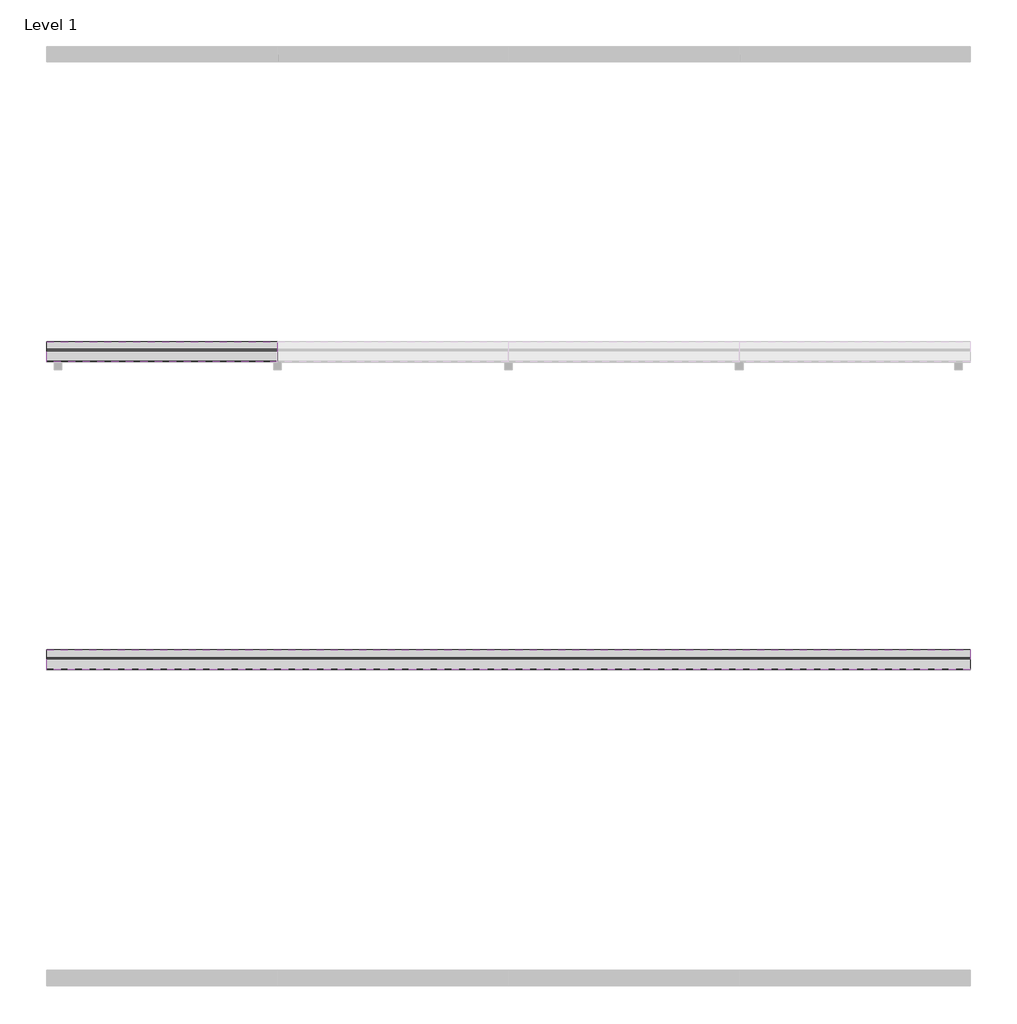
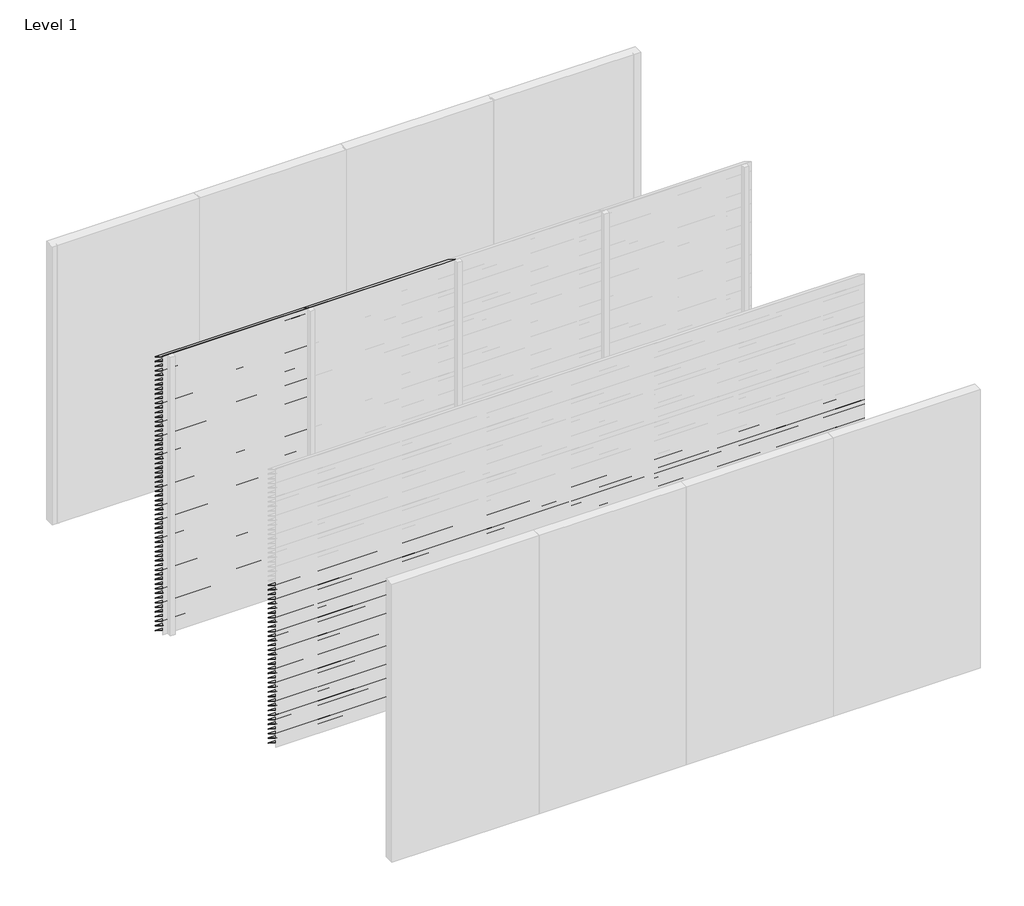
# One storey, part 5 of 13: 96 proxies.
"""IFC4 building model written with IfcOpenShell, lengths in millimetres."""

from ifc_helpers import new_model, si_unit, frame, origin, place, context, project, spatial, polyline, outline, extrude, element, save

model = new_model("IFC4")

# Units and contexts
model_context = context("Model", 3, world=origin())
ifc_project = project(units=[si_unit("LENGTHUNIT", "METRE", prefix="MILLI")], contexts=[model_context])

# Site, building, storey
site = spatial("IfcSite", under=ifc_project)
building = spatial("IfcBuilding", under=site)
storey = spatial("IfcBuildingStorey", under=building, Name="Level 1", Elevation=0.0)

# Proxies
placement = place(None, origin())
element("IfcBuildingElementProxy", 1, Name="Wall Sweeps", at=placement, inside=storey, context=model_context, shape_type="SweptSolid", body=[
    extrude(outline(polyline([(-11995.0, 3000.0), (-11995.0, 2998.0), (-11868.0, 2919.0), (-11868.0, 2913.0), (-11997.0, 2993.2440945), (-11997.0, 3000.0), (-11995.0, 3000.0)])), frame((0.0, 0.0, 0.0), z_axis=(1.0, 0.0, 0.0), x_axis=(0.0, 1.0, 0.0)), (0.0, 0.0, 1.0), 1500.0),
])
element("IfcBuildingElementProxy", 2, Name="Wall Sweeps", at=placement, inside=storey, context=model_context, shape_type="SweptSolid", body=[
    extrude(outline(polyline([(-11995.0, 2950.0), (-11995.0, 2948.0), (-11868.0, 2869.0), (-11868.0, 2863.0), (-11997.0, 2943.2440945), (-11997.0, 2950.0), (-11995.0, 2950.0)])), frame((0.0, 0.0, 0.0), z_axis=(1.0, 0.0, 0.0), x_axis=(0.0, 1.0, 0.0)), (0.0, 0.0, 1.0), 1500.0),
])
element("IfcBuildingElementProxy", 3, Name="Wall Sweeps", at=placement, inside=storey, context=model_context, shape_type="SweptSolid", body=[
    extrude(outline(polyline([(-11995.0, 2900.0), (-11995.0, 2898.0), (-11868.0, 2819.0), (-11868.0, 2813.0), (-11997.0, 2893.2440945), (-11997.0, 2900.0), (-11995.0, 2900.0)])), frame((0.0, 0.0, 0.0), z_axis=(1.0, 0.0, 0.0), x_axis=(0.0, 1.0, 0.0)), (0.0, 0.0, 1.0), 1500.0),
])
element("IfcBuildingElementProxy", 4, Name="Wall Sweeps", at=placement, inside=storey, context=model_context, shape_type="SweptSolid", body=[
    extrude(outline(polyline([(-11995.0, 2850.0), (-11995.0, 2848.0), (-11868.0, 2769.0), (-11868.0, 2763.0), (-11997.0, 2843.2440945), (-11997.0, 2850.0), (-11995.0, 2850.0)])), frame((0.0, 0.0, 0.0), z_axis=(1.0, 0.0, 0.0), x_axis=(0.0, 1.0, 0.0)), (0.0, 0.0, 1.0), 1500.0),
])
element("IfcBuildingElementProxy", 5, Name="Wall Sweeps", at=placement, inside=storey, context=model_context, shape_type="SweptSolid", body=[
    extrude(outline(polyline([(-11995.0, 2800.0), (-11995.0, 2798.0), (-11868.0, 2719.0), (-11868.0, 2713.0), (-11997.0, 2793.2440945), (-11997.0, 2800.0), (-11995.0, 2800.0)])), frame((0.0, 0.0, 0.0), z_axis=(1.0, 0.0, 0.0), x_axis=(0.0, 1.0, 0.0)), (0.0, 0.0, 1.0), 1500.0),
])
element("IfcBuildingElementProxy", 6, Name="Wall Sweeps", at=placement, inside=storey, context=model_context, shape_type="SweptSolid", body=[
    extrude(outline(polyline([(-11995.0, 2750.0), (-11995.0, 2748.0), (-11868.0, 2669.0), (-11868.0, 2663.0), (-11997.0, 2743.2440945), (-11997.0, 2750.0), (-11995.0, 2750.0)])), frame((0.0, 0.0, 0.0), z_axis=(1.0, 0.0, 0.0), x_axis=(0.0, 1.0, 0.0)), (0.0, 0.0, 1.0), 1500.0),
])
element("IfcBuildingElementProxy", 7, Name="Wall Sweeps", at=placement, inside=storey, context=model_context, shape_type="SweptSolid", body=[
    extrude(outline(polyline([(-11995.0, 2700.0), (-11995.0, 2698.0), (-11868.0, 2619.0), (-11868.0, 2613.0), (-11997.0, 2693.2440945), (-11997.0, 2700.0), (-11995.0, 2700.0)])), frame((0.0, 0.0, 0.0), z_axis=(1.0, 0.0, 0.0), x_axis=(0.0, 1.0, 0.0)), (0.0, 0.0, 1.0), 1500.0),
])
element("IfcBuildingElementProxy", 8, Name="Wall Sweeps", at=placement, inside=storey, context=model_context, shape_type="SweptSolid", body=[
    extrude(outline(polyline([(-11995.0, 2650.0), (-11995.0, 2648.0), (-11868.0, 2569.0), (-11868.0, 2563.0), (-11997.0, 2643.2440945), (-11997.0, 2650.0), (-11995.0, 2650.0)])), frame((0.0, 0.0, 0.0), z_axis=(1.0, 0.0, 0.0), x_axis=(0.0, 1.0, 0.0)), (0.0, 0.0, 1.0), 1500.0),
])
element("IfcBuildingElementProxy", 9, Name="Wall Sweeps", at=placement, inside=storey, context=model_context, shape_type="SweptSolid", body=[
    extrude(outline(polyline([(-11995.0, 2600.0), (-11995.0, 2598.0), (-11868.0, 2519.0), (-11868.0, 2513.0), (-11997.0, 2593.2440945), (-11997.0, 2600.0), (-11995.0, 2600.0)])), frame((0.0, 0.0, 0.0), z_axis=(1.0, 0.0, 0.0), x_axis=(0.0, 1.0, 0.0)), (0.0, 0.0, 1.0), 1500.0),
])
element("IfcBuildingElementProxy", 10, Name="Wall Sweeps", at=placement, inside=storey, context=model_context, shape_type="SweptSolid", body=[
    extrude(outline(polyline([(-11995.0, 2550.0), (-11995.0, 2548.0), (-11868.0, 2469.0), (-11868.0, 2463.0), (-11997.0, 2543.2440945), (-11997.0, 2550.0), (-11995.0, 2550.0)])), frame((0.0, 0.0, 0.0), z_axis=(1.0, 0.0, 0.0), x_axis=(0.0, 1.0, 0.0)), (0.0, 0.0, 1.0), 1500.0),
])
element("IfcBuildingElementProxy", 11, Name="Wall Sweeps", at=placement, inside=storey, context=model_context, shape_type="SweptSolid", body=[
    extrude(outline(polyline([(-11995.0, 2500.0), (-11995.0, 2498.0), (-11868.0, 2419.0), (-11868.0, 2413.0), (-11997.0, 2493.2440945), (-11997.0, 2500.0), (-11995.0, 2500.0)])), frame((0.0, 0.0, 0.0), z_axis=(1.0, 0.0, 0.0), x_axis=(0.0, 1.0, 0.0)), (0.0, 0.0, 1.0), 1500.0),
])
element("IfcBuildingElementProxy", 12, Name="Wall Sweeps", at=placement, inside=storey, context=model_context, shape_type="SweptSolid", body=[
    extrude(outline(polyline([(-11995.0, 2450.0), (-11995.0, 2448.0), (-11868.0, 2369.0), (-11868.0, 2363.0), (-11997.0, 2443.2440945), (-11997.0, 2450.0), (-11995.0, 2450.0)])), frame((0.0, 0.0, 0.0), z_axis=(1.0, 0.0, 0.0), x_axis=(0.0, 1.0, 0.0)), (0.0, 0.0, 1.0), 1500.0),
])
element("IfcBuildingElementProxy", 13, Name="Wall Sweeps", at=placement, inside=storey, context=model_context, shape_type="SweptSolid", body=[
    extrude(outline(polyline([(-11995.0, 2400.0), (-11995.0, 2398.0), (-11868.0, 2319.0), (-11868.0, 2313.0), (-11997.0, 2393.2440945), (-11997.0, 2400.0), (-11995.0, 2400.0)])), frame((0.0, 0.0, 0.0), z_axis=(1.0, 0.0, 0.0), x_axis=(0.0, 1.0, 0.0)), (0.0, 0.0, 1.0), 1500.0),
])
element("IfcBuildingElementProxy", 14, Name="Wall Sweeps", at=placement, inside=storey, context=model_context, shape_type="SweptSolid", body=[
    extrude(outline(polyline([(-11995.0, 2350.0), (-11995.0, 2348.0), (-11868.0, 2269.0), (-11868.0, 2263.0), (-11997.0, 2343.2440945), (-11997.0, 2350.0), (-11995.0, 2350.0)])), frame((0.0, 0.0, 0.0), z_axis=(1.0, 0.0, 0.0), x_axis=(0.0, 1.0, 0.0)), (0.0, 0.0, 1.0), 1500.0),
])
element("IfcBuildingElementProxy", 15, Name="Wall Sweeps", at=placement, inside=storey, context=model_context, shape_type="SweptSolid", body=[
    extrude(outline(polyline([(-11995.0, 2300.0), (-11995.0, 2298.0), (-11868.0, 2219.0), (-11868.0, 2213.0), (-11997.0, 2293.2440945), (-11997.0, 2300.0), (-11995.0, 2300.0)])), frame((0.0, 0.0, 0.0), z_axis=(1.0, 0.0, 0.0), x_axis=(0.0, 1.0, 0.0)), (0.0, 0.0, 1.0), 1500.0),
])
element("IfcBuildingElementProxy", 16, Name="Wall Sweeps", at=placement, inside=storey, context=model_context, shape_type="SweptSolid", body=[
    extrude(outline(polyline([(-11995.0, 2250.0), (-11995.0, 2248.0), (-11868.0, 2169.0), (-11868.0, 2163.0), (-11997.0, 2243.2440945), (-11997.0, 2250.0), (-11995.0, 2250.0)])), frame((0.0, 0.0, 0.0), z_axis=(1.0, 0.0, 0.0), x_axis=(0.0, 1.0, 0.0)), (0.0, 0.0, 1.0), 1500.0),
])
element("IfcBuildingElementProxy", 17, Name="Wall Sweeps", at=placement, inside=storey, context=model_context, shape_type="SweptSolid", body=[
    extrude(outline(polyline([(-11995.0, 2200.0), (-11995.0, 2198.0), (-11868.0, 2119.0), (-11868.0, 2113.0), (-11997.0, 2193.2440945), (-11997.0, 2200.0), (-11995.0, 2200.0)])), frame((0.0, 0.0, 0.0), z_axis=(1.0, 0.0, 0.0), x_axis=(0.0, 1.0, 0.0)), (0.0, 0.0, 1.0), 1500.0),
])
element("IfcBuildingElementProxy", 18, Name="Wall Sweeps", at=placement, inside=storey, context=model_context, shape_type="SweptSolid", body=[
    extrude(outline(polyline([(-11995.0, 2150.0), (-11995.0, 2148.0), (-11868.0, 2069.0), (-11868.0, 2063.0), (-11997.0, 2143.2440945), (-11997.0, 2150.0), (-11995.0, 2150.0)])), frame((0.0, 0.0, 0.0), z_axis=(1.0, 0.0, 0.0), x_axis=(0.0, 1.0, 0.0)), (0.0, 0.0, 1.0), 1500.0),
])
element("IfcBuildingElementProxy", 19, Name="Wall Sweeps", at=placement, inside=storey, context=model_context, shape_type="SweptSolid", body=[
    extrude(outline(polyline([(-11995.0, 2100.0), (-11995.0, 2098.0), (-11868.0, 2019.0), (-11868.0, 2013.0), (-11997.0, 2093.2440945), (-11997.0, 2100.0), (-11995.0, 2100.0)])), frame((0.0, 0.0, 0.0), z_axis=(1.0, 0.0, 0.0), x_axis=(0.0, 1.0, 0.0)), (0.0, 0.0, 1.0), 1500.0),
])
element("IfcBuildingElementProxy", 20, Name="Wall Sweeps", at=placement, inside=storey, context=model_context, shape_type="SweptSolid", body=[
    extrude(outline(polyline([(-11995.0, 2050.0), (-11995.0, 2048.0), (-11868.0, 1969.0), (-11868.0, 1963.0), (-11997.0, 2043.2440945), (-11997.0, 2050.0), (-11995.0, 2050.0)])), frame((0.0, 0.0, 0.0), z_axis=(1.0, 0.0, 0.0), x_axis=(0.0, 1.0, 0.0)), (0.0, 0.0, 1.0), 1500.0),
])
element("IfcBuildingElementProxy", 21, Name="Wall Sweeps", at=placement, inside=storey, context=model_context, shape_type="SweptSolid", body=[
    extrude(outline(polyline([(-11995.0, 2000.0), (-11995.0, 1998.0), (-11868.0, 1919.0), (-11868.0, 1913.0), (-11997.0, 1993.2440945), (-11997.0, 2000.0), (-11995.0, 2000.0)])), frame((0.0, 0.0, 0.0), z_axis=(1.0, 0.0, 0.0), x_axis=(0.0, 1.0, 0.0)), (0.0, 0.0, 1.0), 1500.0),
])
element("IfcBuildingElementProxy", 22, Name="Wall Sweeps", at=placement, inside=storey, context=model_context, shape_type="SweptSolid", body=[
    extrude(outline(polyline([(-11995.0, 1950.0), (-11995.0, 1948.0), (-11868.0, 1869.0), (-11868.0, 1863.0), (-11997.0, 1943.2440945), (-11997.0, 1950.0), (-11995.0, 1950.0)])), frame((0.0, 0.0, 0.0), z_axis=(1.0, 0.0, 0.0), x_axis=(0.0, 1.0, 0.0)), (0.0, 0.0, 1.0), 1500.0),
])
element("IfcBuildingElementProxy", 23, Name="Wall Sweeps", at=placement, inside=storey, context=model_context, shape_type="SweptSolid", body=[
    extrude(outline(polyline([(-11995.0, 1900.0), (-11995.0, 1898.0), (-11868.0, 1819.0), (-11868.0, 1813.0), (-11997.0, 1893.2440945), (-11997.0, 1900.0), (-11995.0, 1900.0)])), frame((0.0, 0.0, 0.0), z_axis=(1.0, 0.0, 0.0), x_axis=(0.0, 1.0, 0.0)), (0.0, 0.0, 1.0), 1500.0),
])
element("IfcBuildingElementProxy", 24, Name="Wall Sweeps", at=placement, inside=storey, context=model_context, shape_type="SweptSolid", body=[
    extrude(outline(polyline([(-11995.0, 1850.0), (-11995.0, 1848.0), (-11868.0, 1769.0), (-11868.0, 1763.0), (-11997.0, 1843.2440945), (-11997.0, 1850.0), (-11995.0, 1850.0)])), frame((0.0, 0.0, 0.0), z_axis=(1.0, 0.0, 0.0), x_axis=(0.0, 1.0, 0.0)), (0.0, 0.0, 1.0), 1500.0),
])
element("IfcBuildingElementProxy", 25, Name="Wall Sweeps", at=placement, inside=storey, context=model_context, shape_type="SweptSolid", body=[
    extrude(outline(polyline([(-11995.0, 1800.0), (-11995.0, 1798.0), (-11868.0, 1719.0), (-11868.0, 1713.0), (-11997.0, 1793.2440945), (-11997.0, 1800.0), (-11995.0, 1800.0)])), frame((0.0, 0.0, 0.0), z_axis=(1.0, 0.0, 0.0), x_axis=(0.0, 1.0, 0.0)), (0.0, 0.0, 1.0), 1500.0),
])
element("IfcBuildingElementProxy", 26, Name="Wall Sweeps", at=placement, inside=storey, context=model_context, shape_type="SweptSolid", body=[
    extrude(outline(polyline([(-11995.0, 1750.0), (-11995.0, 1748.0), (-11868.0, 1669.0), (-11868.0, 1663.0), (-11997.0, 1743.2440945), (-11997.0, 1750.0), (-11995.0, 1750.0)])), frame((0.0, 0.0, 0.0), z_axis=(1.0, 0.0, 0.0), x_axis=(0.0, 1.0, 0.0)), (0.0, 0.0, 1.0), 1500.0),
])
element("IfcBuildingElementProxy", 27, Name="Wall Sweeps", at=placement, inside=storey, context=model_context, shape_type="SweptSolid", body=[
    extrude(outline(polyline([(-11995.0, 1700.0), (-11995.0, 1698.0), (-11868.0, 1619.0), (-11868.0, 1613.0), (-11997.0, 1693.2440945), (-11997.0, 1700.0), (-11995.0, 1700.0)])), frame((0.0, 0.0, 0.0), z_axis=(1.0, 0.0, 0.0), x_axis=(0.0, 1.0, 0.0)), (0.0, 0.0, 1.0), 1500.0),
])
element("IfcBuildingElementProxy", 28, Name="Wall Sweeps", at=placement, inside=storey, context=model_context, shape_type="SweptSolid", body=[
    extrude(outline(polyline([(-11995.0, 1650.0), (-11995.0, 1648.0), (-11868.0, 1569.0), (-11868.0, 1563.0), (-11997.0, 1643.2440945), (-11997.0, 1650.0), (-11995.0, 1650.0)])), frame((0.0, 0.0, 0.0), z_axis=(1.0, 0.0, 0.0), x_axis=(0.0, 1.0, 0.0)), (0.0, 0.0, 1.0), 1500.0),
])
element("IfcBuildingElementProxy", 29, Name="Wall Sweeps", at=placement, inside=storey, context=model_context, shape_type="SweptSolid", body=[
    extrude(outline(polyline([(-11995.0, 1600.0), (-11995.0, 1598.0), (-11868.0, 1519.0), (-11868.0, 1513.0), (-11997.0, 1593.2440945), (-11997.0, 1600.0), (-11995.0, 1600.0)])), frame((0.0, 0.0, 0.0), z_axis=(1.0, 0.0, 0.0), x_axis=(0.0, 1.0, 0.0)), (0.0, 0.0, 1.0), 1500.0),
])
element("IfcBuildingElementProxy", 30, Name="Wall Sweeps", at=placement, inside=storey, context=model_context, shape_type="SweptSolid", body=[
    extrude(outline(polyline([(-11995.0, 1550.0), (-11995.0, 1548.0), (-11868.0, 1469.0), (-11868.0, 1463.0), (-11997.0, 1543.2440945), (-11997.0, 1550.0), (-11995.0, 1550.0)])), frame((0.0, 0.0, 0.0), z_axis=(1.0, 0.0, 0.0), x_axis=(0.0, 1.0, 0.0)), (0.0, 0.0, 1.0), 1500.0),
])
element("IfcBuildingElementProxy", 31, Name="Wall Sweeps", at=placement, inside=storey, context=model_context, shape_type="SweptSolid", body=[
    extrude(outline(polyline([(-11995.0, 1500.0), (-11995.0, 1498.0), (-11868.0, 1419.0), (-11868.0, 1413.0), (-11997.0, 1493.2440945), (-11997.0, 1500.0), (-11995.0, 1500.0)])), frame((0.0, 0.0, 0.0), z_axis=(1.0, 0.0, 0.0), x_axis=(0.0, 1.0, 0.0)), (0.0, 0.0, 1.0), 1500.0),
])
element("IfcBuildingElementProxy", 32, Name="Wall Sweeps", at=placement, inside=storey, context=model_context, shape_type="SweptSolid", body=[
    extrude(outline(polyline([(-11995.0, 1450.0), (-11995.0, 1448.0), (-11868.0, 1369.0), (-11868.0, 1363.0), (-11997.0, 1443.2440945), (-11997.0, 1450.0), (-11995.0, 1450.0)])), frame((0.0, 0.0, 0.0), z_axis=(1.0, 0.0, 0.0), x_axis=(0.0, 1.0, 0.0)), (0.0, 0.0, 1.0), 1500.0),
])
element("IfcBuildingElementProxy", 33, Name="Wall Sweeps", at=placement, inside=storey, context=model_context, shape_type="SweptSolid", body=[
    extrude(outline(polyline([(-11995.0, 1400.0), (-11995.0, 1398.0), (-11868.0, 1319.0), (-11868.0, 1313.0), (-11997.0, 1393.2440945), (-11997.0, 1400.0), (-11995.0, 1400.0)])), frame((0.0, 0.0, 0.0), z_axis=(1.0, 0.0, 0.0), x_axis=(0.0, 1.0, 0.0)), (0.0, 0.0, 1.0), 1500.0),
])
element("IfcBuildingElementProxy", 34, Name="Wall Sweeps", at=placement, inside=storey, context=model_context, shape_type="SweptSolid", body=[
    extrude(outline(polyline([(-11995.0, 1350.0), (-11995.0, 1348.0), (-11868.0, 1269.0), (-11868.0, 1263.0), (-11997.0, 1343.2440945), (-11997.0, 1350.0), (-11995.0, 1350.0)])), frame((0.0, 0.0, 0.0), z_axis=(1.0, 0.0, 0.0), x_axis=(0.0, 1.0, 0.0)), (0.0, 0.0, 1.0), 1500.0),
])
element("IfcBuildingElementProxy", 35, Name="Wall Sweeps", at=placement, inside=storey, context=model_context, shape_type="SweptSolid", body=[
    extrude(outline(polyline([(-11995.0, 1300.0), (-11995.0, 1298.0), (-11868.0, 1219.0), (-11868.0, 1213.0), (-11997.0, 1293.2440945), (-11997.0, 1300.0), (-11995.0, 1300.0)])), frame((0.0, 0.0, 0.0), z_axis=(1.0, 0.0, 0.0), x_axis=(0.0, 1.0, 0.0)), (0.0, 0.0, 1.0), 1500.0),
])
element("IfcBuildingElementProxy", 36, Name="Wall Sweeps", at=placement, inside=storey, context=model_context, shape_type="SweptSolid", body=[
    extrude(outline(polyline([(-11995.0, 1250.0), (-11995.0, 1248.0), (-11868.0, 1169.0), (-11868.0, 1163.0), (-11997.0, 1243.2440945), (-11997.0, 1250.0), (-11995.0, 1250.0)])), frame((0.0, 0.0, 0.0), z_axis=(1.0, 0.0, 0.0), x_axis=(0.0, 1.0, 0.0)), (0.0, 0.0, 1.0), 1500.0),
])
element("IfcBuildingElementProxy", 37, Name="Wall Sweeps", at=placement, inside=storey, context=model_context, shape_type="SweptSolid", body=[
    extrude(outline(polyline([(-11995.0, 1200.0), (-11995.0, 1198.0), (-11868.0, 1119.0), (-11868.0, 1113.0), (-11997.0, 1193.2440945), (-11997.0, 1200.0), (-11995.0, 1200.0)])), frame((0.0, 0.0, 0.0), z_axis=(1.0, 0.0, 0.0), x_axis=(0.0, 1.0, 0.0)), (0.0, 0.0, 1.0), 1500.0),
])
element("IfcBuildingElementProxy", 38, Name="Wall Sweeps", at=placement, inside=storey, context=model_context, shape_type="SweptSolid", body=[
    extrude(outline(polyline([(-11995.0, 1150.0), (-11995.0, 1148.0), (-11868.0, 1069.0), (-11868.0, 1063.0), (-11997.0, 1143.2440945), (-11997.0, 1150.0), (-11995.0, 1150.0)])), frame((0.0, 0.0, 0.0), z_axis=(1.0, 0.0, 0.0), x_axis=(0.0, 1.0, 0.0)), (0.0, 0.0, 1.0), 1500.0),
])
element("IfcBuildingElementProxy", 39, Name="Wall Sweeps", at=placement, inside=storey, context=model_context, shape_type="SweptSolid", body=[
    extrude(outline(polyline([(-11995.0, 1100.0), (-11995.0, 1098.0), (-11868.0, 1019.0), (-11868.0, 1013.0), (-11997.0, 1093.2440945), (-11997.0, 1100.0), (-11995.0, 1100.0)])), frame((0.0, 0.0, 0.0), z_axis=(1.0, 0.0, 0.0), x_axis=(0.0, 1.0, 0.0)), (0.0, 0.0, 1.0), 1500.0),
])
element("IfcBuildingElementProxy", 40, Name="Wall Sweeps", at=placement, inside=storey, context=model_context, shape_type="SweptSolid", body=[
    extrude(outline(polyline([(-11995.0, 1050.0), (-11995.0, 1048.0), (-11868.0, 969.0), (-11868.0, 963.0), (-11997.0, 1043.2440945), (-11997.0, 1050.0), (-11995.0, 1050.0)])), frame((0.0, 0.0, 0.0), z_axis=(1.0, 0.0, 0.0), x_axis=(0.0, 1.0, 0.0)), (0.0, 0.0, 1.0), 1500.0),
])
element("IfcBuildingElementProxy", 41, Name="Wall Sweeps", at=placement, inside=storey, context=model_context, shape_type="SweptSolid", body=[
    extrude(outline(polyline([(-11995.0, 1000.0), (-11995.0, 998.0), (-11868.0, 919.0), (-11868.0, 913.0), (-11997.0, 993.2440945), (-11997.0, 1000.0), (-11995.0, 1000.0)])), frame((0.0, 0.0, 0.0), z_axis=(1.0, 0.0, 0.0), x_axis=(0.0, 1.0, 0.0)), (0.0, 0.0, 1.0), 1500.0),
])
element("IfcBuildingElementProxy", 42, Name="Wall Sweeps", at=placement, inside=storey, context=model_context, shape_type="SweptSolid", body=[
    extrude(outline(polyline([(-11995.0, 950.0), (-11995.0, 948.0), (-11868.0, 869.0), (-11868.0, 863.0), (-11997.0, 943.2440945), (-11997.0, 950.0), (-11995.0, 950.0)])), frame((0.0, 0.0, 0.0), z_axis=(1.0, 0.0, 0.0), x_axis=(0.0, 1.0, 0.0)), (0.0, 0.0, 1.0), 1500.0),
])
element("IfcBuildingElementProxy", 43, Name="Wall Sweeps", at=placement, inside=storey, context=model_context, shape_type="SweptSolid", body=[
    extrude(outline(polyline([(-11995.0, 900.0), (-11995.0, 898.0), (-11868.0, 819.0), (-11868.0, 813.0), (-11997.0, 893.2440945), (-11997.0, 900.0), (-11995.0, 900.0)])), frame((0.0, 0.0, 0.0), z_axis=(1.0, 0.0, 0.0), x_axis=(0.0, 1.0, 0.0)), (0.0, 0.0, 1.0), 1500.0),
])
element("IfcBuildingElementProxy", 44, Name="Wall Sweeps", at=placement, inside=storey, context=model_context, shape_type="SweptSolid", body=[
    extrude(outline(polyline([(-11995.0, 850.0), (-11995.0, 848.0), (-11868.0, 769.0), (-11868.0, 763.0), (-11997.0, 843.2440945), (-11997.0, 850.0), (-11995.0, 850.0)])), frame((0.0, 0.0, 0.0), z_axis=(1.0, 0.0, 0.0), x_axis=(0.0, 1.0, 0.0)), (0.0, 0.0, 1.0), 1500.0),
])
element("IfcBuildingElementProxy", 45, Name="Wall Sweeps", at=placement, inside=storey, context=model_context, shape_type="SweptSolid", body=[
    extrude(outline(polyline([(-11995.0, 800.0), (-11995.0, 798.0), (-11868.0, 719.0), (-11868.0, 713.0), (-11997.0, 793.2440945), (-11997.0, 800.0), (-11995.0, 800.0)])), frame((0.0, 0.0, 0.0), z_axis=(1.0, 0.0, 0.0), x_axis=(0.0, 1.0, 0.0)), (0.0, 0.0, 1.0), 1500.0),
])
element("IfcBuildingElementProxy", 46, Name="Wall Sweeps", at=placement, inside=storey, context=model_context, shape_type="SweptSolid", body=[
    extrude(outline(polyline([(-11995.0, 750.0), (-11995.0, 748.0), (-11868.0, 669.0), (-11868.0, 663.0), (-11997.0, 743.2440945), (-11997.0, 750.0), (-11995.0, 750.0)])), frame((0.0, 0.0, 0.0), z_axis=(1.0, 0.0, 0.0), x_axis=(0.0, 1.0, 0.0)), (0.0, 0.0, 1.0), 1500.0),
])
element("IfcBuildingElementProxy", 47, Name="Wall Sweeps", at=placement, inside=storey, context=model_context, shape_type="SweptSolid", body=[
    extrude(outline(polyline([(-11995.0, 700.0), (-11995.0, 698.0), (-11868.0, 619.0), (-11868.0, 613.0), (-11997.0, 693.2440945), (-11997.0, 700.0), (-11995.0, 700.0)])), frame((0.0, 0.0, 0.0), z_axis=(1.0, 0.0, 0.0), x_axis=(0.0, 1.0, 0.0)), (0.0, 0.0, 1.0), 1500.0),
])
element("IfcBuildingElementProxy", 48, Name="Wall Sweeps", at=placement, inside=storey, context=model_context, shape_type="SweptSolid", body=[
    extrude(outline(polyline([(-11995.0, 650.0), (-11995.0, 648.0), (-11868.0, 569.0), (-11868.0, 563.0), (-11997.0, 643.2440945), (-11997.0, 650.0), (-11995.0, 650.0)])), frame((0.0, 0.0, 0.0), z_axis=(1.0, 0.0, 0.0), x_axis=(0.0, 1.0, 0.0)), (0.0, 0.0, 1.0), 1500.0),
])
element("IfcBuildingElementProxy", 49, Name="Wall Sweeps", at=placement, inside=storey, context=model_context, shape_type="SweptSolid", body=[
    extrude(outline(polyline([(-11995.0, 600.0), (-11995.0, 598.0), (-11868.0, 519.0), (-11868.0, 513.0), (-11997.0, 593.2440945), (-11997.0, 600.0), (-11995.0, 600.0)])), frame((0.0, 0.0, 0.0), z_axis=(1.0, 0.0, 0.0), x_axis=(0.0, 1.0, 0.0)), (0.0, 0.0, 1.0), 1500.0),
])
element("IfcBuildingElementProxy", 50, Name="Wall Sweeps", at=placement, inside=storey, context=model_context, shape_type="SweptSolid", body=[
    extrude(outline(polyline([(-11995.0, 550.0), (-11995.0, 548.0), (-11868.0, 469.0), (-11868.0, 463.0), (-11997.0, 543.2440945), (-11997.0, 550.0), (-11995.0, 550.0)])), frame((0.0, 0.0, 0.0), z_axis=(1.0, 0.0, 0.0), x_axis=(0.0, 1.0, 0.0)), (0.0, 0.0, 1.0), 1500.0),
])
element("IfcBuildingElementProxy", 51, Name="Wall Sweeps", at=placement, inside=storey, context=model_context, shape_type="SweptSolid", body=[
    extrude(outline(polyline([(-11995.0, 500.0), (-11995.0, 498.0), (-11868.0, 419.0), (-11868.0, 413.0), (-11997.0, 493.2440945), (-11997.0, 500.0), (-11995.0, 500.0)])), frame((0.0, 0.0, 0.0), z_axis=(1.0, 0.0, 0.0), x_axis=(0.0, 1.0, 0.0)), (0.0, 0.0, 1.0), 1500.0),
])
element("IfcBuildingElementProxy", 52, Name="Wall Sweeps", at=placement, inside=storey, context=model_context, shape_type="SweptSolid", body=[
    extrude(outline(polyline([(-11995.0, 450.0), (-11995.0, 448.0), (-11868.0, 369.0), (-11868.0, 363.0), (-11997.0, 443.2440945), (-11997.0, 450.0), (-11995.0, 450.0)])), frame((0.0, 0.0, 0.0), z_axis=(1.0, 0.0, 0.0), x_axis=(0.0, 1.0, 0.0)), (0.0, 0.0, 1.0), 1500.0),
])
element("IfcBuildingElementProxy", 53, Name="Wall Sweeps", at=placement, inside=storey, context=model_context, shape_type="SweptSolid", body=[
    extrude(outline(polyline([(-11995.0, 400.0), (-11995.0, 398.0), (-11868.0, 319.0), (-11868.0, 313.0), (-11997.0, 393.2440945), (-11997.0, 400.0), (-11995.0, 400.0)])), frame((0.0, 0.0, 0.0), z_axis=(1.0, 0.0, 0.0), x_axis=(0.0, 1.0, 0.0)), (0.0, 0.0, 1.0), 1500.0),
])
element("IfcBuildingElementProxy", 54, Name="Wall Sweeps", at=placement, inside=storey, context=model_context, shape_type="SweptSolid", body=[
    extrude(outline(polyline([(-11995.0, 350.0), (-11995.0, 348.0), (-11868.0, 269.0), (-11868.0, 263.0), (-11997.0, 343.2440945), (-11997.0, 350.0), (-11995.0, 350.0)])), frame((0.0, 0.0, 0.0), z_axis=(1.0, 0.0, 0.0), x_axis=(0.0, 1.0, 0.0)), (0.0, 0.0, 1.0), 1500.0),
])
element("IfcBuildingElementProxy", 55, Name="Wall Sweeps", at=placement, inside=storey, context=model_context, shape_type="SweptSolid", body=[
    extrude(outline(polyline([(-11995.0, 300.0), (-11995.0, 298.0), (-11868.0, 219.0), (-11868.0, 213.0), (-11997.0, 293.2440945), (-11997.0, 300.0), (-11995.0, 300.0)])), frame((0.0, 0.0, 0.0), z_axis=(1.0, 0.0, 0.0), x_axis=(0.0, 1.0, 0.0)), (0.0, 0.0, 1.0), 1500.0),
])
element("IfcBuildingElementProxy", 56, Name="Wall Sweeps", at=placement, inside=storey, context=model_context, shape_type="SweptSolid", body=[
    extrude(outline(polyline([(-11995.0, 250.0), (-11995.0, 248.0), (-11868.0, 169.0), (-11868.0, 163.0), (-11997.0, 243.2440945), (-11997.0, 250.0), (-11995.0, 250.0)])), frame((0.0, 0.0, 0.0), z_axis=(1.0, 0.0, 0.0), x_axis=(0.0, 1.0, 0.0)), (0.0, 0.0, 1.0), 1500.0),
])
element("IfcBuildingElementProxy", 57, Name="Wall Sweeps", at=placement, inside=storey, context=model_context, shape_type="SweptSolid", body=[
    extrude(outline(polyline([(-11995.0, 200.0), (-11995.0, 198.0), (-11868.0, 119.0), (-11868.0, 113.0), (-11997.0, 193.2440945), (-11997.0, 200.0), (-11995.0, 200.0)])), frame((0.0, 0.0, 0.0), z_axis=(1.0, 0.0, 0.0), x_axis=(0.0, 1.0, 0.0)), (0.0, 0.0, 1.0), 1500.0),
])
element("IfcBuildingElementProxy", 58, Name="Wall Sweeps", at=placement, inside=storey, context=model_context, shape_type="SweptSolid", body=[
    extrude(outline(polyline([(-11995.0, 150.0), (-11995.0, 148.0), (-11868.0, 69.0), (-11868.0, 63.0), (-11997.0, 143.2440945), (-11997.0, 150.0), (-11995.0, 150.0)])), frame((0.0, 0.0, 0.0), z_axis=(1.0, 0.0, 0.0), x_axis=(0.0, 1.0, 0.0)), (0.0, 0.0, 1.0), 1500.0),
])
element("IfcBuildingElementProxy", 59, Name="Wall Sweeps", at=placement, inside=storey, context=model_context, shape_type="SweptSolid", body=[
    extrude(outline(polyline([(-11995.0, 100.0), (-11995.0, 98.0), (-11868.0, 19.0), (-11868.0, 13.0), (-11997.0, 93.2440945), (-11997.0, 100.0), (-11995.0, 100.0)])), frame((0.0, 0.0, 0.0), z_axis=(1.0, 0.0, 0.0), x_axis=(0.0, 1.0, 0.0)), (0.0, 0.0, 1.0), 1500.0),
])
element("IfcBuildingElementProxy", 60, Name="Wall Sweeps", at=placement, inside=storey, context=model_context, shape_type="SweptSolid", body=[
    extrude(outline(polyline([(-11995.0, 50.0), (-11995.0, 48.0), (-11868.0, -31.0), (-11868.0, -37.0), (-11997.0, 43.2440945), (-11997.0, 50.0), (-11995.0, 50.0)])), frame((0.0, 0.0, 0.0), z_axis=(1.0, 0.0, 0.0), x_axis=(0.0, 1.0, 0.0)), (0.0, 0.0, 1.0), 1500.0),
])
element("IfcBuildingElementProxy", 61, Name="Wall Sweeps", at=placement, inside=storey, context=model_context, shape_type="SweptSolid", body=[
    extrude(outline(polyline([(-11995.0, 3000.0), (-11995.0, 2998.0), (-11868.0, 2919.0), (-11868.0, 2913.0), (-11997.0, 2993.2440945), (-11997.0, 3000.0), (-11995.0, 3000.0)])), frame((1500.0, 0.0, 0.0), z_axis=(1.0, 0.0, 0.0), x_axis=(0.0, 1.0, 0.0)), (0.0, 0.0, 1.0), 1500.0),
])
element("IfcBuildingElementProxy", 62, Name="Wall Sweeps", at=placement, inside=storey, context=model_context, shape_type="SweptSolid", body=[
    extrude(outline(polyline([(-13995.0, 1750.0), (-13995.0, 1748.0), (-13868.0, 1669.0), (-13868.0, 1663.0), (-13997.0, 1743.2440945), (-13997.0, 1750.0), (-13995.0, 1750.0)])), frame((0.0, 0.0, 0.0), z_axis=(1.0, 0.0, 0.0), x_axis=(0.0, 1.0, 0.0)), (0.0, 0.0, 1.0), 6000.0),
])
element("IfcBuildingElementProxy", 63, Name="Wall Sweeps", at=placement, inside=storey, context=model_context, shape_type="SweptSolid", body=[
    extrude(outline(polyline([(-13995.0, 1700.0), (-13995.0, 1698.0), (-13868.0, 1619.0), (-13868.0, 1613.0), (-13997.0, 1693.2440945), (-13997.0, 1700.0), (-13995.0, 1700.0)])), frame((0.0, 0.0, 0.0), z_axis=(1.0, 0.0, 0.0), x_axis=(0.0, 1.0, 0.0)), (0.0, 0.0, 1.0), 6000.0),
])
element("IfcBuildingElementProxy", 64, Name="Wall Sweeps", at=placement, inside=storey, context=model_context, shape_type="SweptSolid", body=[
    extrude(outline(polyline([(-13995.0, 1650.0), (-13995.0, 1648.0), (-13868.0, 1569.0), (-13868.0, 1563.0), (-13997.0, 1643.2440945), (-13997.0, 1650.0), (-13995.0, 1650.0)])), frame((0.0, 0.0, 0.0), z_axis=(1.0, 0.0, 0.0), x_axis=(0.0, 1.0, 0.0)), (0.0, 0.0, 1.0), 6000.0),
])
element("IfcBuildingElementProxy", 65, Name="Wall Sweeps", at=placement, inside=storey, context=model_context, shape_type="SweptSolid", body=[
    extrude(outline(polyline([(-13995.0, 1600.0), (-13995.0, 1598.0), (-13868.0, 1519.0), (-13868.0, 1513.0), (-13997.0, 1593.2440945), (-13997.0, 1600.0), (-13995.0, 1600.0)])), frame((0.0, 0.0, 0.0), z_axis=(1.0, 0.0, 0.0), x_axis=(0.0, 1.0, 0.0)), (0.0, 0.0, 1.0), 6000.0),
])
element("IfcBuildingElementProxy", 66, Name="Wall Sweeps", at=placement, inside=storey, context=model_context, shape_type="SweptSolid", body=[
    extrude(outline(polyline([(-13995.0, 1550.0), (-13995.0, 1548.0), (-13868.0, 1469.0), (-13868.0, 1463.0), (-13997.0, 1543.2440945), (-13997.0, 1550.0), (-13995.0, 1550.0)])), frame((0.0, 0.0, 0.0), z_axis=(1.0, 0.0, 0.0), x_axis=(0.0, 1.0, 0.0)), (0.0, 0.0, 1.0), 6000.0),
])
element("IfcBuildingElementProxy", 67, Name="Wall Sweeps", at=placement, inside=storey, context=model_context, shape_type="SweptSolid", body=[
    extrude(outline(polyline([(-13995.0, 1500.0), (-13995.0, 1498.0), (-13868.0, 1419.0), (-13868.0, 1413.0), (-13997.0, 1493.2440945), (-13997.0, 1500.0), (-13995.0, 1500.0)])), frame((0.0, 0.0, 0.0), z_axis=(1.0, 0.0, 0.0), x_axis=(0.0, 1.0, 0.0)), (0.0, 0.0, 1.0), 6000.0),
])
element("IfcBuildingElementProxy", 68, Name="Wall Sweeps", at=placement, inside=storey, context=model_context, shape_type="SweptSolid", body=[
    extrude(outline(polyline([(-13995.0, 1450.0), (-13995.0, 1448.0), (-13868.0, 1369.0), (-13868.0, 1363.0), (-13997.0, 1443.2440945), (-13997.0, 1450.0), (-13995.0, 1450.0)])), frame((0.0, 0.0, 0.0), z_axis=(1.0, 0.0, 0.0), x_axis=(0.0, 1.0, 0.0)), (0.0, 0.0, 1.0), 6000.0),
])
element("IfcBuildingElementProxy", 69, Name="Wall Sweeps", at=placement, inside=storey, context=model_context, shape_type="SweptSolid", body=[
    extrude(outline(polyline([(-13995.0, 1400.0), (-13995.0, 1398.0), (-13868.0, 1319.0), (-13868.0, 1313.0), (-13997.0, 1393.2440945), (-13997.0, 1400.0), (-13995.0, 1400.0)])), frame((0.0, 0.0, 0.0), z_axis=(1.0, 0.0, 0.0), x_axis=(0.0, 1.0, 0.0)), (0.0, 0.0, 1.0), 6000.0),
])
element("IfcBuildingElementProxy", 70, Name="Wall Sweeps", at=placement, inside=storey, context=model_context, shape_type="SweptSolid", body=[
    extrude(outline(polyline([(-13995.0, 1350.0), (-13995.0, 1348.0), (-13868.0, 1269.0), (-13868.0, 1263.0), (-13997.0, 1343.2440945), (-13997.0, 1350.0), (-13995.0, 1350.0)])), frame((0.0, 0.0, 0.0), z_axis=(1.0, 0.0, 0.0), x_axis=(0.0, 1.0, 0.0)), (0.0, 0.0, 1.0), 6000.0),
])
element("IfcBuildingElementProxy", 71, Name="Wall Sweeps", at=placement, inside=storey, context=model_context, shape_type="SweptSolid", body=[
    extrude(outline(polyline([(-13995.0, 1300.0), (-13995.0, 1298.0), (-13868.0, 1219.0), (-13868.0, 1213.0), (-13997.0, 1293.2440945), (-13997.0, 1300.0), (-13995.0, 1300.0)])), frame((0.0, 0.0, 0.0), z_axis=(1.0, 0.0, 0.0), x_axis=(0.0, 1.0, 0.0)), (0.0, 0.0, 1.0), 6000.0),
])
element("IfcBuildingElementProxy", 72, Name="Wall Sweeps", at=placement, inside=storey, context=model_context, shape_type="SweptSolid", body=[
    extrude(outline(polyline([(-13995.0, 1250.0), (-13995.0, 1248.0), (-13868.0, 1169.0), (-13868.0, 1163.0), (-13997.0, 1243.2440945), (-13997.0, 1250.0), (-13995.0, 1250.0)])), frame((0.0, 0.0, 0.0), z_axis=(1.0, 0.0, 0.0), x_axis=(0.0, 1.0, 0.0)), (0.0, 0.0, 1.0), 6000.0),
])
element("IfcBuildingElementProxy", 73, Name="Wall Sweeps", at=placement, inside=storey, context=model_context, shape_type="SweptSolid", body=[
    extrude(outline(polyline([(-13995.0, 1200.0), (-13995.0, 1198.0), (-13868.0, 1119.0), (-13868.0, 1113.0), (-13997.0, 1193.2440945), (-13997.0, 1200.0), (-13995.0, 1200.0)])), frame((0.0, 0.0, 0.0), z_axis=(1.0, 0.0, 0.0), x_axis=(0.0, 1.0, 0.0)), (0.0, 0.0, 1.0), 6000.0),
])
element("IfcBuildingElementProxy", 74, Name="Wall Sweeps", at=placement, inside=storey, context=model_context, shape_type="SweptSolid", body=[
    extrude(outline(polyline([(-13995.0, 1150.0), (-13995.0, 1148.0), (-13868.0, 1069.0), (-13868.0, 1063.0), (-13997.0, 1143.2440945), (-13997.0, 1150.0), (-13995.0, 1150.0)])), frame((0.0, 0.0, 0.0), z_axis=(1.0, 0.0, 0.0), x_axis=(0.0, 1.0, 0.0)), (0.0, 0.0, 1.0), 6000.0),
])
element("IfcBuildingElementProxy", 75, Name="Wall Sweeps", at=placement, inside=storey, context=model_context, shape_type="SweptSolid", body=[
    extrude(outline(polyline([(-13995.0, 1100.0), (-13995.0, 1098.0), (-13868.0, 1019.0), (-13868.0, 1013.0), (-13997.0, 1093.2440945), (-13997.0, 1100.0), (-13995.0, 1100.0)])), frame((0.0, 0.0, 0.0), z_axis=(1.0, 0.0, 0.0), x_axis=(0.0, 1.0, 0.0)), (0.0, 0.0, 1.0), 6000.0),
])
element("IfcBuildingElementProxy", 76, Name="Wall Sweeps", at=placement, inside=storey, context=model_context, shape_type="SweptSolid", body=[
    extrude(outline(polyline([(-13995.0, 1050.0), (-13995.0, 1048.0), (-13868.0, 969.0), (-13868.0, 963.0), (-13997.0, 1043.2440945), (-13997.0, 1050.0), (-13995.0, 1050.0)])), frame((0.0, 0.0, 0.0), z_axis=(1.0, 0.0, 0.0), x_axis=(0.0, 1.0, 0.0)), (0.0, 0.0, 1.0), 6000.0),
])
element("IfcBuildingElementProxy", 77, Name="Wall Sweeps", at=placement, inside=storey, context=model_context, shape_type="SweptSolid", body=[
    extrude(outline(polyline([(-13995.0, 1000.0), (-13995.0, 998.0), (-13868.0, 919.0), (-13868.0, 913.0), (-13997.0, 993.2440945), (-13997.0, 1000.0), (-13995.0, 1000.0)])), frame((0.0, 0.0, 0.0), z_axis=(1.0, 0.0, 0.0), x_axis=(0.0, 1.0, 0.0)), (0.0, 0.0, 1.0), 6000.0),
])
element("IfcBuildingElementProxy", 78, Name="Wall Sweeps", at=placement, inside=storey, context=model_context, shape_type="SweptSolid", body=[
    extrude(outline(polyline([(-13995.0, 950.0), (-13995.0, 948.0), (-13868.0, 869.0), (-13868.0, 863.0), (-13997.0, 943.2440945), (-13997.0, 950.0), (-13995.0, 950.0)])), frame((0.0, 0.0, 0.0), z_axis=(1.0, 0.0, 0.0), x_axis=(0.0, 1.0, 0.0)), (0.0, 0.0, 1.0), 6000.0),
])
element("IfcBuildingElementProxy", 79, Name="Wall Sweeps", at=placement, inside=storey, context=model_context, shape_type="SweptSolid", body=[
    extrude(outline(polyline([(-13995.0, 900.0), (-13995.0, 898.0), (-13868.0, 819.0), (-13868.0, 813.0), (-13997.0, 893.2440945), (-13997.0, 900.0), (-13995.0, 900.0)])), frame((0.0, 0.0, 0.0), z_axis=(1.0, 0.0, 0.0), x_axis=(0.0, 1.0, 0.0)), (0.0, 0.0, 1.0), 6000.0),
])
element("IfcBuildingElementProxy", 80, Name="Wall Sweeps", at=placement, inside=storey, context=model_context, shape_type="SweptSolid", body=[
    extrude(outline(polyline([(-13995.0, 850.0), (-13995.0, 848.0), (-13868.0, 769.0), (-13868.0, 763.0), (-13997.0, 843.2440945), (-13997.0, 850.0), (-13995.0, 850.0)])), frame((0.0, 0.0, 0.0), z_axis=(1.0, 0.0, 0.0), x_axis=(0.0, 1.0, 0.0)), (0.0, 0.0, 1.0), 6000.0),
])
element("IfcBuildingElementProxy", 81, Name="Wall Sweeps", at=placement, inside=storey, context=model_context, shape_type="SweptSolid", body=[
    extrude(outline(polyline([(-13995.0, 800.0), (-13995.0, 798.0), (-13868.0, 719.0), (-13868.0, 713.0), (-13997.0, 793.2440945), (-13997.0, 800.0), (-13995.0, 800.0)])), frame((0.0, 0.0, 0.0), z_axis=(1.0, 0.0, 0.0), x_axis=(0.0, 1.0, 0.0)), (0.0, 0.0, 1.0), 6000.0),
])
element("IfcBuildingElementProxy", 82, Name="Wall Sweeps", at=placement, inside=storey, context=model_context, shape_type="SweptSolid", body=[
    extrude(outline(polyline([(-13995.0, 750.0), (-13995.0, 748.0), (-13868.0, 669.0), (-13868.0, 663.0), (-13997.0, 743.2440945), (-13997.0, 750.0), (-13995.0, 750.0)])), frame((0.0, 0.0, 0.0), z_axis=(1.0, 0.0, 0.0), x_axis=(0.0, 1.0, 0.0)), (0.0, 0.0, 1.0), 6000.0),
])
element("IfcBuildingElementProxy", 83, Name="Wall Sweeps", at=placement, inside=storey, context=model_context, shape_type="SweptSolid", body=[
    extrude(outline(polyline([(-13995.0, 700.0), (-13995.0, 698.0), (-13868.0, 619.0), (-13868.0, 613.0), (-13997.0, 693.2440945), (-13997.0, 700.0), (-13995.0, 700.0)])), frame((0.0, 0.0, 0.0), z_axis=(1.0, 0.0, 0.0), x_axis=(0.0, 1.0, 0.0)), (0.0, 0.0, 1.0), 6000.0),
])
element("IfcBuildingElementProxy", 84, Name="Wall Sweeps", at=placement, inside=storey, context=model_context, shape_type="SweptSolid", body=[
    extrude(outline(polyline([(-13995.0, 650.0), (-13995.0, 648.0), (-13868.0, 569.0), (-13868.0, 563.0), (-13997.0, 643.2440945), (-13997.0, 650.0), (-13995.0, 650.0)])), frame((0.0, 0.0, 0.0), z_axis=(1.0, 0.0, 0.0), x_axis=(0.0, 1.0, 0.0)), (0.0, 0.0, 1.0), 6000.0),
])
element("IfcBuildingElementProxy", 85, Name="Wall Sweeps", at=placement, inside=storey, context=model_context, shape_type="SweptSolid", body=[
    extrude(outline(polyline([(-13995.0, 600.0), (-13995.0, 598.0), (-13868.0, 519.0), (-13868.0, 513.0), (-13997.0, 593.2440945), (-13997.0, 600.0), (-13995.0, 600.0)])), frame((0.0, 0.0, 0.0), z_axis=(1.0, 0.0, 0.0), x_axis=(0.0, 1.0, 0.0)), (0.0, 0.0, 1.0), 6000.0),
])
element("IfcBuildingElementProxy", 86, Name="Wall Sweeps", at=placement, inside=storey, context=model_context, shape_type="SweptSolid", body=[
    extrude(outline(polyline([(-13995.0, 550.0), (-13995.0, 548.0), (-13868.0, 469.0), (-13868.0, 463.0), (-13997.0, 543.2440945), (-13997.0, 550.0), (-13995.0, 550.0)])), frame((0.0, 0.0, 0.0), z_axis=(1.0, 0.0, 0.0), x_axis=(0.0, 1.0, 0.0)), (0.0, 0.0, 1.0), 6000.0),
])
element("IfcBuildingElementProxy", 87, Name="Wall Sweeps", at=placement, inside=storey, context=model_context, shape_type="SweptSolid", body=[
    extrude(outline(polyline([(-13995.0, 500.0), (-13995.0, 498.0), (-13868.0, 419.0), (-13868.0, 413.0), (-13997.0, 493.2440945), (-13997.0, 500.0), (-13995.0, 500.0)])), frame((0.0, 0.0, 0.0), z_axis=(1.0, 0.0, 0.0), x_axis=(0.0, 1.0, 0.0)), (0.0, 0.0, 1.0), 6000.0),
])
element("IfcBuildingElementProxy", 88, Name="Wall Sweeps", at=placement, inside=storey, context=model_context, shape_type="SweptSolid", body=[
    extrude(outline(polyline([(-13995.0, 450.0), (-13995.0, 448.0), (-13868.0, 369.0), (-13868.0, 363.0), (-13997.0, 443.2440945), (-13997.0, 450.0), (-13995.0, 450.0)])), frame((0.0, 0.0, 0.0), z_axis=(1.0, 0.0, 0.0), x_axis=(0.0, 1.0, 0.0)), (0.0, 0.0, 1.0), 6000.0),
])
element("IfcBuildingElementProxy", 89, Name="Wall Sweeps", at=placement, inside=storey, context=model_context, shape_type="SweptSolid", body=[
    extrude(outline(polyline([(-13995.0, 400.0), (-13995.0, 398.0), (-13868.0, 319.0), (-13868.0, 313.0), (-13997.0, 393.2440945), (-13997.0, 400.0), (-13995.0, 400.0)])), frame((0.0, 0.0, 0.0), z_axis=(1.0, 0.0, 0.0), x_axis=(0.0, 1.0, 0.0)), (0.0, 0.0, 1.0), 6000.0),
])
element("IfcBuildingElementProxy", 90, Name="Wall Sweeps", at=placement, inside=storey, context=model_context, shape_type="SweptSolid", body=[
    extrude(outline(polyline([(-13995.0, 350.0), (-13995.0, 348.0), (-13868.0, 269.0), (-13868.0, 263.0), (-13997.0, 343.2440945), (-13997.0, 350.0), (-13995.0, 350.0)])), frame((0.0, 0.0, 0.0), z_axis=(1.0, 0.0, 0.0), x_axis=(0.0, 1.0, 0.0)), (0.0, 0.0, 1.0), 6000.0),
])
element("IfcBuildingElementProxy", 91, Name="Wall Sweeps", at=placement, inside=storey, context=model_context, shape_type="SweptSolid", body=[
    extrude(outline(polyline([(-13995.0, 300.0), (-13995.0, 298.0), (-13868.0, 219.0), (-13868.0, 213.0), (-13997.0, 293.2440945), (-13997.0, 300.0), (-13995.0, 300.0)])), frame((0.0, 0.0, 0.0), z_axis=(1.0, 0.0, 0.0), x_axis=(0.0, 1.0, 0.0)), (0.0, 0.0, 1.0), 6000.0),
])
element("IfcBuildingElementProxy", 92, Name="Wall Sweeps", at=placement, inside=storey, context=model_context, shape_type="SweptSolid", body=[
    extrude(outline(polyline([(-13995.0, 250.0), (-13995.0, 248.0), (-13868.0, 169.0), (-13868.0, 163.0), (-13997.0, 243.2440945), (-13997.0, 250.0), (-13995.0, 250.0)])), frame((0.0, 0.0, 0.0), z_axis=(1.0, 0.0, 0.0), x_axis=(0.0, 1.0, 0.0)), (0.0, 0.0, 1.0), 6000.0),
])
element("IfcBuildingElementProxy", 93, Name="Wall Sweeps", at=placement, inside=storey, context=model_context, shape_type="SweptSolid", body=[
    extrude(outline(polyline([(-13995.0, 200.0), (-13995.0, 198.0), (-13868.0, 119.0), (-13868.0, 113.0), (-13997.0, 193.2440945), (-13997.0, 200.0), (-13995.0, 200.0)])), frame((0.0, 0.0, 0.0), z_axis=(1.0, 0.0, 0.0), x_axis=(0.0, 1.0, 0.0)), (0.0, 0.0, 1.0), 6000.0),
])
element("IfcBuildingElementProxy", 94, Name="Wall Sweeps", at=placement, inside=storey, context=model_context, shape_type="SweptSolid", body=[
    extrude(outline(polyline([(-13995.0, 150.0), (-13995.0, 148.0), (-13868.0, 69.0), (-13868.0, 63.0), (-13997.0, 143.2440945), (-13997.0, 150.0), (-13995.0, 150.0)])), frame((0.0, 0.0, 0.0), z_axis=(1.0, 0.0, 0.0), x_axis=(0.0, 1.0, 0.0)), (0.0, 0.0, 1.0), 6000.0),
])
element("IfcBuildingElementProxy", 95, Name="Wall Sweeps", at=placement, inside=storey, context=model_context, shape_type="SweptSolid", body=[
    extrude(outline(polyline([(-13995.0, 100.0), (-13995.0, 98.0), (-13868.0, 19.0), (-13868.0, 13.0), (-13997.0, 93.2440945), (-13997.0, 100.0), (-13995.0, 100.0)])), frame((0.0, 0.0, 0.0), z_axis=(1.0, 0.0, 0.0), x_axis=(0.0, 1.0, 0.0)), (0.0, 0.0, 1.0), 6000.0),
])
element("IfcBuildingElementProxy", 96, Name="Wall Sweeps", at=placement, inside=storey, context=model_context, shape_type="SweptSolid", body=[
    extrude(outline(polyline([(-13995.0, 50.0), (-13995.0, 48.0), (-13868.0, -31.0), (-13868.0, -37.0), (-13997.0, 43.2440945), (-13997.0, 50.0), (-13995.0, 50.0)])), frame((0.0, 0.0, 0.0), z_axis=(1.0, 0.0, 0.0), x_axis=(0.0, 1.0, 0.0)), (0.0, 0.0, 1.0), 6000.0),
])

save(model, "model.ifc")
